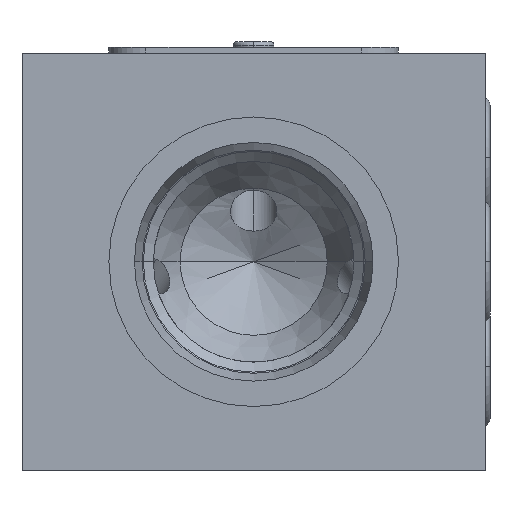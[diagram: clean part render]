
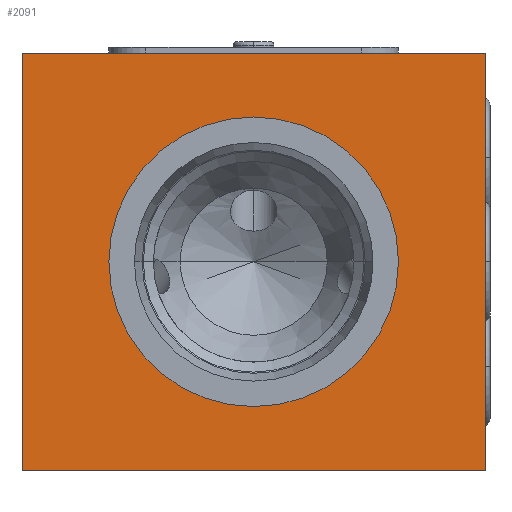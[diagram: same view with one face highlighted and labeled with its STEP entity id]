
A CAD part, left-side view. The second image highlights one B-rep face of the part: STEP entity #2091.
In plain terms, the highlighted planar face has unit normal (-1, 0, 0).
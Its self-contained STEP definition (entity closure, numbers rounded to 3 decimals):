
#54=DIRECTION('',(0.,0.,-1.));
#55=VECTOR('',#54,36.);
#56=CARTESIAN_POINT('',(0.,0.,0.));
#57=LINE('',#56,#55);
#58=DIRECTION('',(0.,1.,0.));
#59=VECTOR('',#58,40.);
#60=CARTESIAN_POINT('',(0.,0.,-36.));
#61=LINE('',#60,#59);
#62=DIRECTION('',(0.,0.,1.));
#63=VECTOR('',#62,36.);
#64=CARTESIAN_POINT('',(0.,40.,-36.));
#65=LINE('',#64,#63);
#66=DIRECTION('',(0.,-1.,0.));
#67=VECTOR('',#66,40.);
#68=CARTESIAN_POINT('',(0.,40.,0.));
#69=LINE('',#68,#67);
#70=CARTESIAN_POINT('',(0.,20.,-18.));
#71=DIRECTION('',(1.,0.,0.));
#72=DIRECTION('',(0.,-1.,0.));
#73=AXIS2_PLACEMENT_3D('',#70,#71,#72);
#75=CARTESIAN_POINT('',(0.,20.,-18.));
#76=DIRECTION('',(1.,0.,0.));
#77=DIRECTION('',(0.,1.,0.));
#78=AXIS2_PLACEMENT_3D('',#75,#76,#77);
#1820=CARTESIAN_POINT('',(0.,0.,0.));
#1821=CARTESIAN_POINT('',(0.,0.,-36.));
#1822=VERTEX_POINT('',#1820);
#1823=VERTEX_POINT('',#1821);
#1824=CARTESIAN_POINT('',(0.,40.,-36.));
#1825=VERTEX_POINT('',#1824);
#1826=CARTESIAN_POINT('',(0.,40.,0.));
#1827=VERTEX_POINT('',#1826);
#1936=CARTESIAN_POINT('',(0.,7.5,-18.));
#1937=VERTEX_POINT('',#1936);
#1938=CARTESIAN_POINT('',(0.,32.5,-18.));
#1939=VERTEX_POINT('',#1938);
#2070=CARTESIAN_POINT('',(0.,0.,0.));
#2071=DIRECTION('',(1.,0.,0.));
#2072=DIRECTION('',(0.,0.,-1.));
#2073=AXIS2_PLACEMENT_3D('',#2070,#2071,#2072);
#2074=PLANE('',#2073);
#2076=ORIENTED_EDGE('',*,*,#2075,.T.);
#2078=ORIENTED_EDGE('',*,*,#2077,.T.);
#2080=ORIENTED_EDGE('',*,*,#2079,.T.);
#2082=ORIENTED_EDGE('',*,*,#2081,.T.);
#2083=EDGE_LOOP('',(#2076,#2078,#2080,#2082));
#2084=FACE_OUTER_BOUND('',#2083,.F.);
#2086=ORIENTED_EDGE('',*,*,#2085,.F.);
#2088=ORIENTED_EDGE('',*,*,#2087,.F.);
#2089=EDGE_LOOP('',(#2086,#2088));
#2090=FACE_BOUND('',#2089,.F.);
#74=CIRCLE('',#73,12.5);
#79=CIRCLE('',#78,12.5);
#2075=EDGE_CURVE('',#1822,#1823,#57,.T.);
#2077=EDGE_CURVE('',#1823,#1825,#61,.T.);
#2079=EDGE_CURVE('',#1825,#1827,#65,.T.);
#2081=EDGE_CURVE('',#1827,#1822,#69,.T.);
#2085=EDGE_CURVE('',#1937,#1939,#74,.T.);
#2087=EDGE_CURVE('',#1939,#1937,#79,.T.);
#2091=ADVANCED_FACE('',(#2084,#2090),#2074,.F.);
